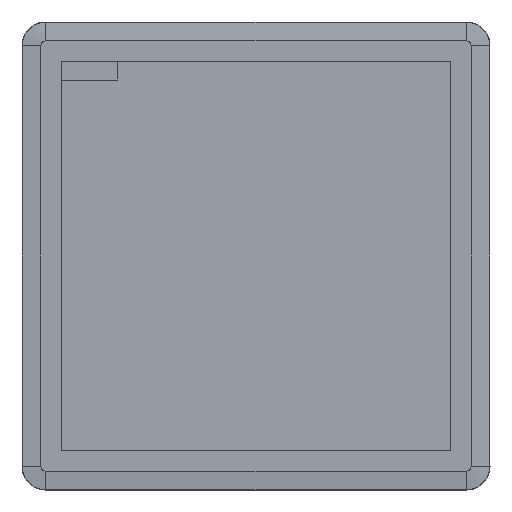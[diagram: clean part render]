
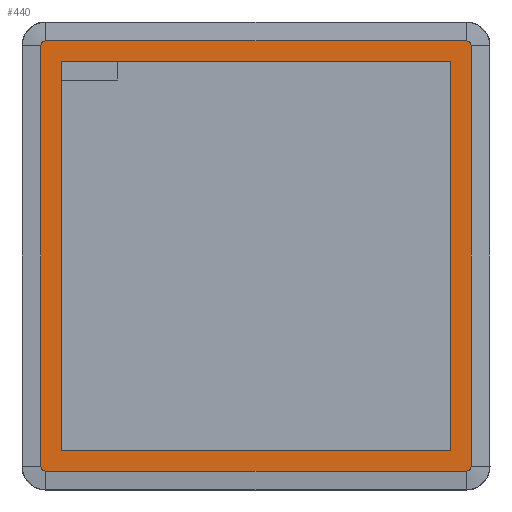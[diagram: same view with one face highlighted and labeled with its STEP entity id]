
A CAD part, front view. The second image highlights one B-rep face of the part: STEP entity #440.
In plain terms, the highlighted planar face has unit normal (0, -1, 0).
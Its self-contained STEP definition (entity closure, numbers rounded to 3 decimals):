
#183=FACE_BOUND('',#1906,.T.);
#440=ADVANCED_FACE('',(#1160,#183),#11892,.T.);
#1160=FACE_OUTER_BOUND('',#1905,.T.);
#1905=EDGE_LOOP('',(#3455,#3456,#3457,#3458,#3459,#3460,#3461,#3462));
#1906=EDGE_LOOP('',(#3463,#3464,#3465,#3466));
#3455=ORIENTED_EDGE('',*,*,#6735,.F.);
#3456=ORIENTED_EDGE('',*,*,#6732,.F.);
#3457=ORIENTED_EDGE('',*,*,#6739,.F.);
#3458=ORIENTED_EDGE('',*,*,#6746,.F.);
#3459=ORIENTED_EDGE('',*,*,#6751,.F.);
#3460=ORIENTED_EDGE('',*,*,#6765,.T.);
#3461=ORIENTED_EDGE('',*,*,#6747,.F.);
#3462=ORIENTED_EDGE('',*,*,#6741,.F.);
#3463=ORIENTED_EDGE('',*,*,#6769,.T.);
#3464=ORIENTED_EDGE('',*,*,#6766,.T.);
#3465=ORIENTED_EDGE('',*,*,#6767,.T.);
#3466=ORIENTED_EDGE('',*,*,#6768,.T.);
#6732=EDGE_CURVE('',#10581,#10582,#9320,.T.);
#6735=EDGE_CURVE('',#10582,#10584,#9323,.T.);
#6739=EDGE_CURVE('',#10587,#10581,#9327,.T.);
#6741=EDGE_CURVE('',#10584,#10588,#9329,.T.);
#6746=EDGE_CURVE('',#10591,#10587,#9334,.T.);
#6747=EDGE_CURVE('',#10588,#10592,#9335,.T.);
#6751=EDGE_CURVE('',#10595,#10591,#9339,.T.);
#6765=EDGE_CURVE('',#10595,#10592,#9345,.T.);
#6766=EDGE_CURVE('',#10596,#10597,#9346,.T.);
#6767=EDGE_CURVE('',#10597,#10598,#9347,.T.);
#6768=EDGE_CURVE('',#10598,#10599,#9348,.T.);
#6769=EDGE_CURVE('',#10599,#10596,#9349,.T.);
#9320=B_SPLINE_CURVE_WITH_KNOTS('',1,(#42937,#42938),.UNSPECIFIED.,.F.,.F.,
(2,2),(0.,1.),.UNSPECIFIED.);
#9323=B_SPLINE_CURVE_WITH_KNOTS('',3,(#42943,#42944,#42945,#42946,#42947,
#42948),.UNSPECIFIED.,.F.,.F.,(4,2,4),(-0.785,0.,
0.785),.UNSPECIFIED.);
#9327=B_SPLINE_CURVE_WITH_KNOTS('',3,(#42959,#42960,#42961,#42962,#42963,
#42964),.UNSPECIFIED.,.F.,.F.,(4,2,4),(-0.785,0.,
0.785),.UNSPECIFIED.);
#9329=B_SPLINE_CURVE_WITH_KNOTS('',1,(#42971,#42972),.UNSPECIFIED.,.F.,.F.,
(2,2),(0.,1.),.UNSPECIFIED.);
#9334=B_SPLINE_CURVE_WITH_KNOTS('',1,(#42981,#42982),.UNSPECIFIED.,.F.,.F.,
(2,2),(-1.,0.),.UNSPECIFIED.);
#9335=B_SPLINE_CURVE_WITH_KNOTS('',3,(#42983,#42984,#42985,#42986,#42987,
#42988),.UNSPECIFIED.,.F.,.F.,(4,2,4),(-0.785,0.,
0.785),.UNSPECIFIED.);
#9339=B_SPLINE_CURVE_WITH_KNOTS('',3,(#42999,#43000,#43001,#43002,#43003,
#43004),.UNSPECIFIED.,.F.,.F.,(4,2,4),(-0.785,0.,
0.785),.UNSPECIFIED.);
#9345=B_SPLINE_CURVE_WITH_KNOTS('',1,(#43083,#43084),.UNSPECIFIED.,.F.,.F.,
(2,2),(0.,1.),.UNSPECIFIED.);
#9346=B_SPLINE_CURVE_WITH_KNOTS('',1,(#43085,#43086),.UNSPECIFIED.,.F.,.F.,
(2,2),(-4.,-3.),.UNSPECIFIED.);
#9347=B_SPLINE_CURVE_WITH_KNOTS('',1,(#43087,#43088),.UNSPECIFIED.,.F.,.F.,
(2,2),(-3.,-2.),.UNSPECIFIED.);
#9348=B_SPLINE_CURVE_WITH_KNOTS('',1,(#43089,#43090),.UNSPECIFIED.,.F.,.F.,
(2,2),(-2.,-1.),.UNSPECIFIED.);
#9349=B_SPLINE_CURVE_WITH_KNOTS('',1,(#43091,#43092),.UNSPECIFIED.,.F.,.F.,
(2,2),(-1.,0.),.UNSPECIFIED.);
#10581=VERTEX_POINT('',#42827);
#10582=VERTEX_POINT('',#42828);
#10584=VERTEX_POINT('',#42830);
#10587=VERTEX_POINT('',#42833);
#10588=VERTEX_POINT('',#42834);
#10591=VERTEX_POINT('',#42837);
#10592=VERTEX_POINT('',#42838);
#10595=VERTEX_POINT('',#42841);
#10596=VERTEX_POINT('',#42842);
#10597=VERTEX_POINT('',#42843);
#10598=VERTEX_POINT('',#42844);
#10599=VERTEX_POINT('',#42845);
#11892=PLANE('',#12373);
#12373=AXIS2_PLACEMENT_3D('',#42791,#12770,$);
#12770=DIRECTION('',(0.,-1.,0.));
#42791=CARTESIAN_POINT('',(-137.481,-30.5,137.481));
#42827=CARTESIAN_POINT('',(112.074,-30.5,-114.555));
#42828=CARTESIAN_POINT('',(-112.074,-30.5,-114.555));
#42830=CARTESIAN_POINT('',(-114.555,-30.5,-112.074));
#42833=CARTESIAN_POINT('',(114.555,-30.5,-112.074));
#42834=CARTESIAN_POINT('',(-114.555,-30.5,112.074));
#42837=CARTESIAN_POINT('',(114.555,-30.5,112.074));
#42838=CARTESIAN_POINT('',(-112.074,-30.5,114.555));
#42841=CARTESIAN_POINT('',(112.074,-30.5,114.555));
#42842=CARTESIAN_POINT('',(-103.734,-30.5,103.734));
#42843=CARTESIAN_POINT('',(103.734,-30.5,103.734));
#42844=CARTESIAN_POINT('',(103.734,-30.5,-103.734));
#42845=CARTESIAN_POINT('',(-103.734,-30.5,-103.734));
#42937=CARTESIAN_POINT('',(112.074,-30.5,-114.555));
#42938=CARTESIAN_POINT('',(-112.074,-30.5,-114.555));
#42943=CARTESIAN_POINT('',(-112.074,-30.5,-114.555));
#42944=CARTESIAN_POINT('',(-112.725,-30.5,-114.558));
#42945=CARTESIAN_POINT('',(-113.369,-30.5,-114.288));
#42946=CARTESIAN_POINT('',(-114.288,-30.5,-113.369));
#42947=CARTESIAN_POINT('',(-114.558,-30.5,-112.725));
#42948=CARTESIAN_POINT('',(-114.555,-30.5,-112.074));
#42959=CARTESIAN_POINT('',(114.555,-30.5,-112.074));
#42960=CARTESIAN_POINT('',(114.558,-30.5,-112.725));
#42961=CARTESIAN_POINT('',(114.288,-30.5,-113.369));
#42962=CARTESIAN_POINT('',(113.369,-30.5,-114.288));
#42963=CARTESIAN_POINT('',(112.725,-30.5,-114.558));
#42964=CARTESIAN_POINT('',(112.074,-30.5,-114.555));
#42971=CARTESIAN_POINT('',(-114.555,-30.5,-112.074));
#42972=CARTESIAN_POINT('',(-114.555,-30.5,112.074));
#42981=CARTESIAN_POINT('',(114.555,-30.5,112.074));
#42982=CARTESIAN_POINT('',(114.555,-30.5,-112.074));
#42983=CARTESIAN_POINT('',(-114.555,-30.5,112.074));
#42984=CARTESIAN_POINT('',(-114.558,-30.5,112.725));
#42985=CARTESIAN_POINT('',(-114.288,-30.5,113.369));
#42986=CARTESIAN_POINT('',(-113.369,-30.5,114.288));
#42987=CARTESIAN_POINT('',(-112.725,-30.5,114.558));
#42988=CARTESIAN_POINT('',(-112.074,-30.5,114.555));
#42999=CARTESIAN_POINT('',(112.074,-30.5,114.555));
#43000=CARTESIAN_POINT('',(112.725,-30.5,114.558));
#43001=CARTESIAN_POINT('',(113.369,-30.5,114.288));
#43002=CARTESIAN_POINT('',(114.288,-30.5,113.369));
#43003=CARTESIAN_POINT('',(114.558,-30.5,112.725));
#43004=CARTESIAN_POINT('',(114.555,-30.5,112.074));
#43083=CARTESIAN_POINT('',(112.074,-30.5,114.555));
#43084=CARTESIAN_POINT('',(-112.074,-30.5,114.555));
#43085=CARTESIAN_POINT('',(-103.734,-30.5,103.734));
#43086=CARTESIAN_POINT('',(103.734,-30.5,103.734));
#43087=CARTESIAN_POINT('',(103.734,-30.5,103.734));
#43088=CARTESIAN_POINT('',(103.734,-30.5,-103.734));
#43089=CARTESIAN_POINT('',(103.734,-30.5,-103.734));
#43090=CARTESIAN_POINT('',(-103.734,-30.5,-103.734));
#43091=CARTESIAN_POINT('',(-103.734,-30.5,-103.734));
#43092=CARTESIAN_POINT('',(-103.734,-30.5,103.734));
